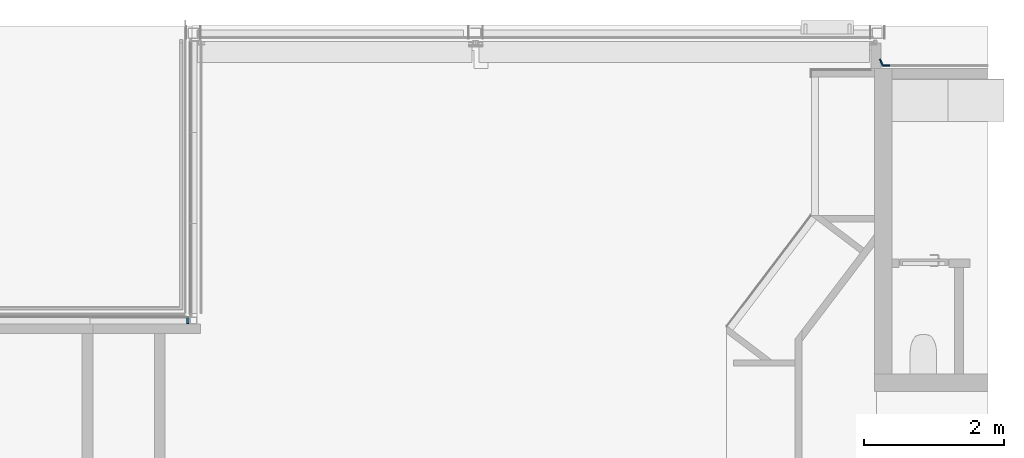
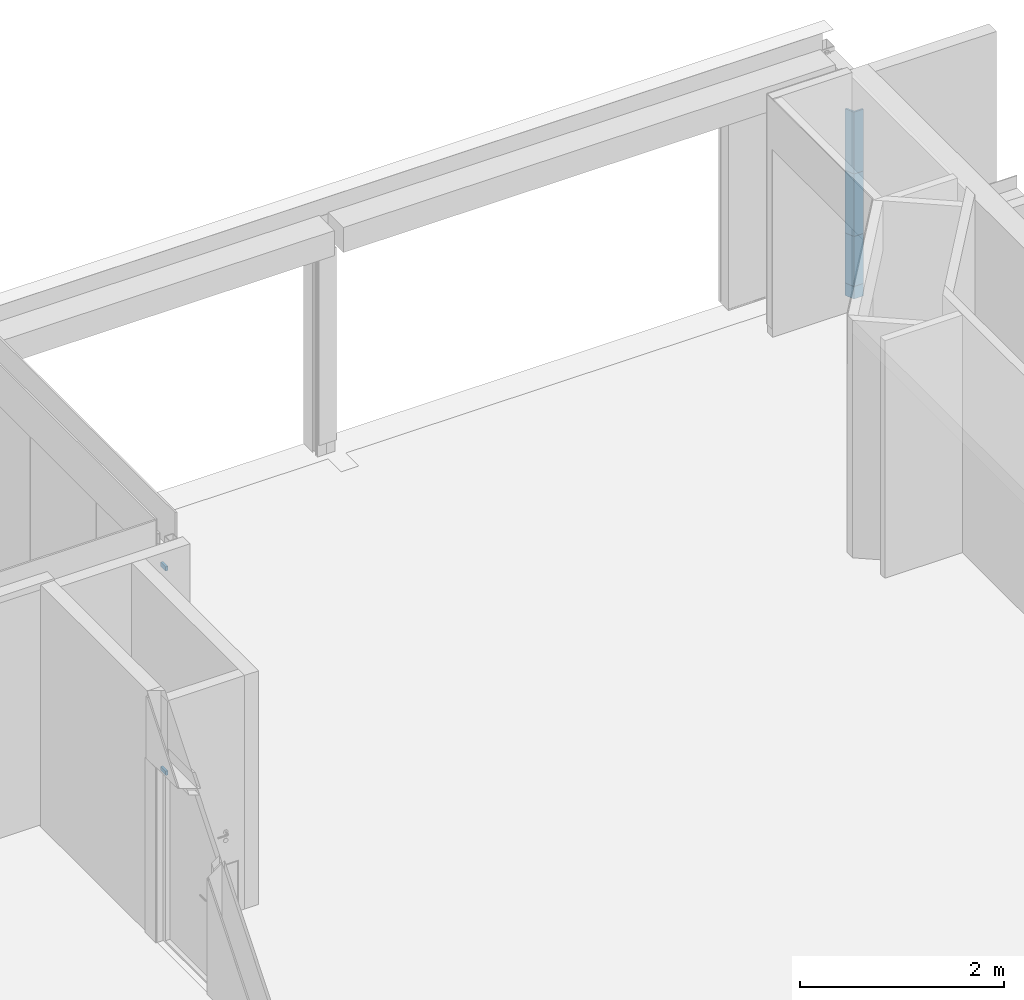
# One storey, part 7 of 37: 6 members, 2 elements without a shape of their own.
"""IFC2X3 building model written with IfcOpenShell, lengths in millimetres."""

from ifc_helpers import new_model, entity, si_unit, converted_unit, derived_unit, direction, frame, origin, origin_with_axes, origin_2d_with_axis, place, context, subcontext, project, spatial, polyline, rectangle, outline, extrude, source, transform, mapped, material, type_object, element, aggregate, save


model = new_model("IFC2X3")

# Units and contexts
model_context = context("Model", 3, precision=0.01, world=frame((0.0, 4.29681676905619e-09, 0.0)), true_north=direction((4.01073788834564e-13, 1.0)))
plan_context = context("Plan", 3, precision=0.01, world=frame((0.0, 4.29681676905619e-09, 0.0)), true_north=direction((4.01073788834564e-13, 1.0)))
body_context = subcontext(model_context, "Body", "Model", "MODEL_VIEW")
ifc_project = project(units=[converted_unit("PLANEANGLEUNIT", "DEGREE", entity("IfcPositiveLengthMeasure", 0.0174532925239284), si_unit("PLANEANGLEUNIT", "RADIAN"), dimensions=[0, 0, 0, 0, 0, 0, 0]), si_unit("AREAUNIT", "SQUARE_METRE"), si_unit("LENGTHUNIT", "METRE", prefix="MILLI"), si_unit("MASSUNIT", "GRAM", prefix="KILO"), si_unit("POWERUNIT", "WATT"), si_unit("PRESSUREUNIT", "PASCAL"), si_unit("FORCEUNIT", "NEWTON", prefix="KILO"), si_unit("ELECTRICVOLTAGEUNIT", "VOLT"), si_unit("ELECTRICCURRENTUNIT", "AMPERE"), si_unit("THERMODYNAMICTEMPERATUREUNIT", "DEGREE_CELSIUS"), si_unit("TIMEUNIT", "SECOND"), si_unit("VOLUMEUNIT", "CUBIC_METRE"), derived_unit("LINEARVELOCITYUNIT", [(si_unit("LENGTHUNIT", "METRE"), 1), (si_unit("TIMEUNIT", "SECOND"), -1)]), derived_unit("VOLUMETRICFLOWRATEUNIT", [(si_unit("VOLUMEUNIT", "CUBIC_METRE"), 1), (si_unit("TIMEUNIT", "SECOND"), -1)]), derived_unit("THERMALTRANSMITTANCEUNIT", [(si_unit("POWERUNIT", "WATT"), 1), (si_unit("THERMODYNAMICTEMPERATUREUNIT", "KELVIN"), -1), (si_unit("AREAUNIT", "SQUARE_METRE"), -1)]), derived_unit("SOUNDPRESSUREUNIT", [(si_unit("PRESSUREUNIT", "PASCAL"), 1)])], contexts=[model_context, plan_context])

# Site, building, storey
site_placement = place(None, origin_with_axes())
site = spatial("IfcSite", under=ifc_project, at=site_placement, Name="ENGM", CompositionType="ELEMENT")
building_placement = place(site_placement, origin_with_axes())
building = spatial("IfcBuilding", under=site, at=building_placement, Name="TS", CompositionType="ELEMENT")
storey_placement = place(building_placement, frame((0.0, 0.0, 210900.0), z_axis=(0.0, 0.0, 1.0), x_axis=(1.0, 0.0, 0.0)))
storey = spatial("IfcBuildingStorey", under=building, at=storey_placement, Name="Nivå F", CompositionType="ELEMENT", Elevation=210900.0)

# Curtain wall, members
curtain_wall_type_1 = type_object("IfcCurtainWallType", Name="Curtain Wall:A245 - IMK (Innvendig Metall Kledning) 20mm - Offset 30mm", PredefinedType="NOTDEFINED")
curtain_wall_1_placement = place(storey_placement, frame((0.0, 0.0, -210900.0), z_axis=(0.0, 0.0, 1.0), x_axis=(1.0, 0.0, 0.0)))
curtain_wall_1 = element("IfcCurtainWall", 1, at=curtain_wall_1_placement, inside=storey, type_object=curtain_wall_type_1, Name="Curtain Wall:A245 - IMK (Innvendig Metall Kledning) 20mm - Offset 30mm", ObjectType="Curtain Wall:A245 - IMK (Innvendig Metall Kledning) 20mm - Offset 30mm")
ifc_material_1 = material(Name="Metal - Steel")
member_type_1 = type_object("IfcMemberType", Name="L Corner Mullion:A233 - Sprosse - 20 x 100 mm", PredefinedType="MULLION", material=ifc_material_1)
shared_shape_1 = source(origin(), body_context, "Body", "SweptSolid", [
    extrude(outline(polyline([(20.3099142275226, -80.538227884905), (40.3099142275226, -80.538227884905), (40.3099142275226, 25.8826982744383), (-56.4583600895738, 70.1694300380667), (-64.7812968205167, 51.9834815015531), (20.3099142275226, 13.0408459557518), (20.3099142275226, -80.538227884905)])), frame((-45.1454767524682, -70.3099142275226, -740.0), z_axis=(0.0, 0.0, 1.0), x_axis=(0.90929742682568, 0.416146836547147, 0.0)), (0.0, 0.0, 1.0), 740.000000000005),
])
member_1_placement = place(curtain_wall_1_placement, frame((534788.999999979, 461299.300000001, 213150.0), z_axis=(0.0, 0.0, 1.0), x_axis=(-1.0, 0.0, 0.0)))
member_1 = element("IfcMember", 2, at=member_1_placement, type_object=member_type_1, material=ifc_material_1, Name="L Corner Mullion:A233 - Sprosse - 20 x 100 mm", ObjectType="L Corner Mullion:A233 - Sprosse - 20 x 100 mm", context=body_context, shape_type="MappedRepresentation", body=[
    mapped(shared_shape_1, transform((0.0, 0.0, 0.0), scale=1.0)),
])
member_type_2 = type_object("IfcMemberType", Name="L Corner Mullion:A233 - Sprosse - 20 x 100 mm", PredefinedType="MULLION", material=ifc_material_1)
shared_shape_2 = source(origin(), body_context, "Body", "SweptSolid", [
    extrude(outline(polyline([(20.3099142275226, -80.538227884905), (40.3099142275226, -80.538227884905), (40.3099142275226, 25.8826982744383), (-56.4583600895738, 70.1694300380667), (-64.7812968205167, 51.9834815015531), (20.3099142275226, 13.0408459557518), (20.3099142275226, -80.538227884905)])), frame((-45.1454767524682, -70.3099142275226, -150.0), z_axis=(0.0, 0.0, 1.0), x_axis=(0.90929742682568, 0.416146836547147, 0.0)), (0.0, 0.0, 1.0), 150.000000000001),
])
member_2_placement = place(curtain_wall_1_placement, frame((534788.999999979, 461299.300000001, 211060.0), z_axis=(0.0, 0.0, 1.0), x_axis=(-1.0, 0.0, 0.0)))
member_2 = element("IfcMember", 3, at=member_2_placement, type_object=member_type_2, material=ifc_material_1, Name="L Corner Mullion:A233 - Sprosse - 20 x 100 mm", ObjectType="L Corner Mullion:A233 - Sprosse - 20 x 100 mm", context=body_context, shape_type="MappedRepresentation", body=[
    mapped(shared_shape_2, transform((0.0, 0.0, 0.0), scale=1.0)),
])
member_type_3 = type_object("IfcMemberType", Name="L Corner Mullion:A233 - Sprosse - 20 x 100 mm", PredefinedType="MULLION", material=ifc_material_1)
shared_shape_3 = source(origin(), body_context, "Body", "SweptSolid", [
    extrude(outline(polyline([(20.3099142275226, -80.538227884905), (40.3099142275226, -80.538227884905), (40.3099142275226, 25.8826982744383), (-56.4583600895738, 70.1694300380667), (-64.7812968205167, 51.9834815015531), (20.3099142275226, 13.0408459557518), (20.3099142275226, -80.538227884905)])), frame((-45.1454767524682, -70.3099142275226, -600.0), z_axis=(0.0, 0.0, 1.0), x_axis=(0.90929742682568, 0.416146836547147, 0.0)), (0.0, 0.0, 1.0), 600.000000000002),
])
member_3_placement = place(curtain_wall_1_placement, frame((534788.999999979, 461299.300000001, 211660.0), z_axis=(0.0, 0.0, 1.0), x_axis=(-1.0, 0.0, 0.0)))
member_3 = element("IfcMember", 4, at=member_3_placement, type_object=member_type_3, material=ifc_material_1, Name="L Corner Mullion:A233 - Sprosse - 20 x 100 mm", ObjectType="L Corner Mullion:A233 - Sprosse - 20 x 100 mm", context=body_context, shape_type="MappedRepresentation", body=[
    mapped(shared_shape_3, transform((0.0, 0.0, 0.0), scale=1.0)),
])
member_type_4 = type_object("IfcMemberType", Name="L Corner Mullion:A233 - Sprosse - 20 x 100 mm", PredefinedType="MULLION", material=ifc_material_1)
shared_shape_4 = source(origin(), body_context, "Body", "SweptSolid", [
    extrude(outline(polyline([(20.3099142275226, -80.538227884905), (40.3099142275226, -80.538227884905), (40.3099142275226, 25.8826982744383), (-56.4583600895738, 70.1694300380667), (-64.7812968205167, 51.9834815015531), (20.3099142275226, 13.0408459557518), (20.3099142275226, -80.538227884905)])), frame((-45.1454767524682, -70.3099142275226, -750.0), z_axis=(0.0, 0.0, 1.0), x_axis=(0.90929742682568, 0.416146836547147, 0.0)), (0.0, 0.0, 1.0), 750.000000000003),
])
member_4_placement = place(curtain_wall_1_placement, frame((534788.999999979, 461299.300000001, 212410.0), z_axis=(0.0, 0.0, 1.0), x_axis=(-1.0, 0.0, 0.0)))
member_4 = element("IfcMember", 5, at=member_4_placement, type_object=member_type_4, material=ifc_material_1, Name="L Corner Mullion:A233 - Sprosse - 20 x 100 mm", ObjectType="L Corner Mullion:A233 - Sprosse - 20 x 100 mm", context=body_context, shape_type="MappedRepresentation", body=[
    mapped(shared_shape_4, transform((0.0, 0.0, 0.0), scale=1.0)),
])
aggregate(curtain_wall_1, [member_1, member_2, member_3, member_4])

curtain_wall_type_2 = type_object("IfcCurtainWallType", Name="Curtain Wall:A242 - IGV - Glass - 10 mm", PredefinedType="NOTDEFINED")
curtain_wall_2_placement = place(storey_placement, frame((0.0, 0.0, -210900.0), z_axis=(0.0, 0.0, 1.0), x_axis=(1.0, 0.0, 0.0)))
curtain_wall_2 = element("IfcCurtainWall", 6, at=curtain_wall_2_placement, inside=storey, type_object=curtain_wall_type_2, Name="Curtain Wall:A242 - IGV - Glass - 10 mm", ObjectType="Curtain Wall:A242 - IGV - Glass - 10 mm")
ifc_material_2 = material(Name="Metal - Aluminium")
member_type_5 = type_object("IfcMemberType", Name="Rectangular Mullion:A233 - Sprosse rektangulær - 50 x 100 mm", PredefinedType="MULLION", material=ifc_material_2)
shared_shape_5 = source(origin(), body_context, "Body", "SweptSolid", [
    extrude(rectangle(XDim=50.0, YDim=100.0, at=origin_2d_with_axis()), frame((-25.0, 50.0, -27.7499999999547), z_axis=(0.0, 0.0, 1.0), x_axis=(-1.0, 0.0, 0.0)), (0.0, 0.0, 1.0), 27.7499999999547),
])
member_5_placement = place(curtain_wall_2_placement, frame((524905.000000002, 457749.999999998, 213405.0), z_axis=(1.0, 0.0, 0.0), x_axis=(0.0, 0.0, 1.0)))
member_5 = element("IfcMember", 7, at=member_5_placement, type_object=member_type_5, material=ifc_material_2, Name="Rectangular Mullion:A233 - Sprosse rektangulær - 50 x 100 mm", ObjectType="Rectangular Mullion:A233 - Sprosse rektangulær - 50 x 100 mm", context=body_context, shape_type="MappedRepresentation", body=[
    mapped(shared_shape_5, transform((0.0, 0.0, 0.0), scale=1.0)),
])
member_type_6 = type_object("IfcMemberType", Name="Rectangular Mullion:A233 - Sprosse rektangulær - 50 x 100 mm", PredefinedType="MULLION", material=ifc_material_2)
member_6_placement = place(curtain_wall_2_placement, frame((524877.250000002, 457749.999999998, 210905.0), z_axis=(-1.0, 0.0, 0.0), x_axis=(0.0, 0.0, -1.0)))
member_6 = element("IfcMember", 8, at=member_6_placement, type_object=member_type_6, material=ifc_material_2, Name="Rectangular Mullion:A233 - Sprosse rektangulær - 50 x 100 mm", ObjectType="Rectangular Mullion:A233 - Sprosse rektangulær - 50 x 100 mm", context=body_context, shape_type="MappedRepresentation", body=[
    mapped(shared_shape_5, transform((0.0, 0.0, 0.0), scale=1.0)),
])
aggregate(curtain_wall_2, [member_5, member_6])

save(model, "model.ifc")
